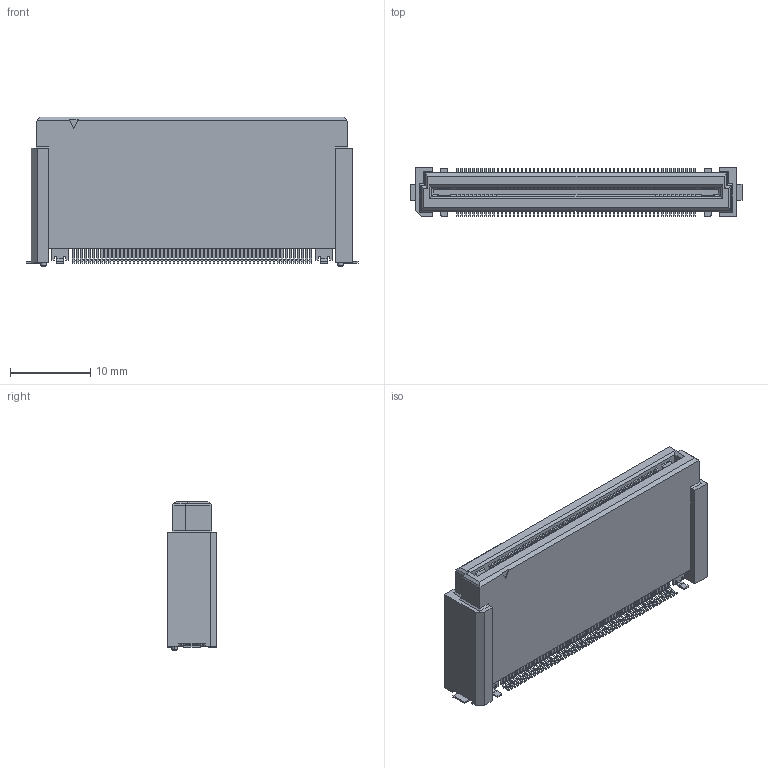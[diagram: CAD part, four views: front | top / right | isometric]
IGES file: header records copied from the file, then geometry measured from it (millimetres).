
Start section: Elysium IGES Interface
Global section: file name: 124HG:\その他\DT関連\DT_CADﾃﾞｰﾀ\DT_3DCAD(客先提出用)\プラグ\DT1XE(電源pin)\-20\DT11E-XXXS-20-T(WEB用)\P3E818_DT11E-120S-20-T.igs; native system: Creo Elements/Direct Modeling 20.6  25-Mar-2023; preprocessor: Creo Element/Direct IGES_3D V2.2; author: Unknown; organization: Unknown; date: 20240312.115939; units: millimetre
Bounding box: 41.4 x 6.2 x 18.63 mm (x, y, z)
Volume: 3031.2 mm3; surface area: 2649.4 mm2
Topology: 1 solids, 1 shells, 3785 faces, 10682 edges, 7028 vertices
Faces by surface type: bspline 3785
